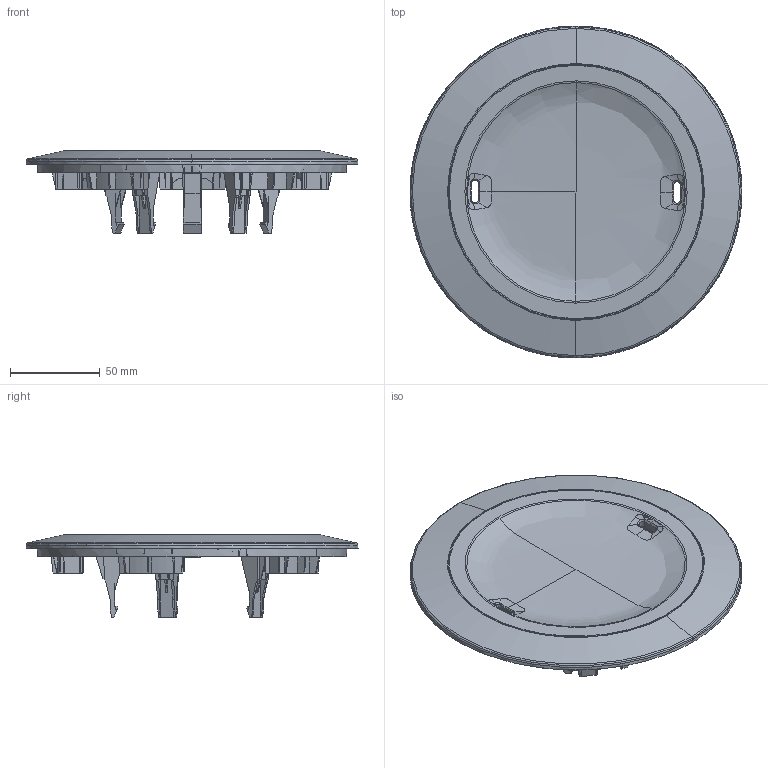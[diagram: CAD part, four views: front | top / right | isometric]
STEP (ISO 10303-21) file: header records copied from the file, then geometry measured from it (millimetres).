
FILE_DESCRIPTION((''),'2;1');
FILE_NAME('YC_SJ_ZS002885_04','2026-03-19T18:58:09',('sean.li'),(''),'CREO PARAMETRIC BY PTC INC, 2022164','CREO PARAMETRIC BY PTC INC, 2022164','');
FILE_SCHEMA(('CONFIG_CONTROL_DESIGN','SHAPE_APPEARANCE_LAYERS_GROUPS'));
Products named in the file (1): YC_SJ_ZS002885_04
Bounding box: 185.21 x 185.22 x 45.93 mm (x, y, z)
Volume: 94516.8 mm3; surface area: 97015.1 mm2
Topology: 1 solids, 1 shells, 1591 faces, 4678 edges, 3171 vertices
Faces by surface type: plane 751, extrusion 505, cone 177, bspline 108, cylinder 21, revolution 19, torus 10
Entity records: 87039 total; most frequent: CARTESIAN_POINT 23458, ORIENTED_EDGE 9350, PRESENTATION_STYLE_ASSIGNMENT 6218, STYLED_ITEM 6208, DIRECTION 5669, CURVE_STYLE 4675, EDGE_CURVE 4675, VERTEX_POINT 3171
